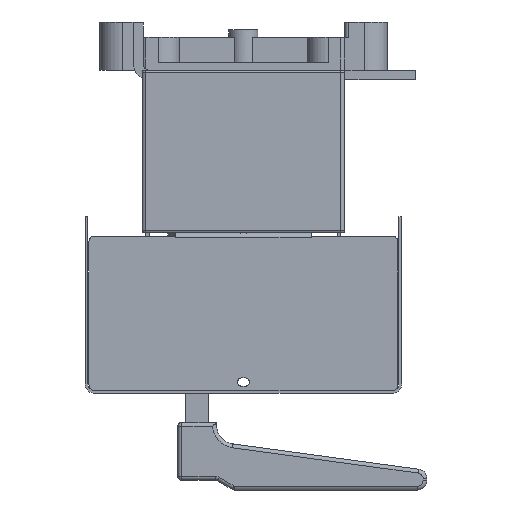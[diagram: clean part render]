
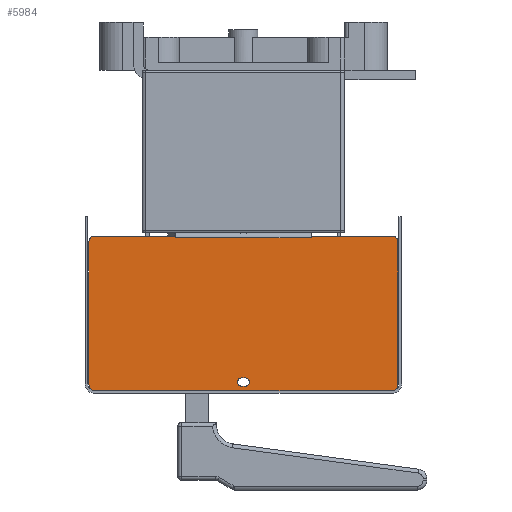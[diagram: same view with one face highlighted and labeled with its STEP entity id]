
A CAD part, left-side view. The second image highlights one B-rep face of the part: STEP entity #5984.
In plain terms, the highlighted planar face has unit normal (-1, 0, 0).
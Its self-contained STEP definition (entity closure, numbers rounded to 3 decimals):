
#637=FACE_BOUND('',#9055,.T.);
#638=FACE_BOUND('',#9056,.T.);
#2228=LINE('',#33777,#4470);
#2235=LINE('',#33795,#4477);
#2241=LINE('',#33812,#4483);
#2245=LINE('',#33825,#4487);
#2250=LINE('',#33842,#4492);
#2251=LINE('',#33847,#4493);
#2256=LINE('',#33860,#4498);
#2257=LINE('',#33862,#4499);
#2258=LINE('',#33864,#4500);
#2259=LINE('',#33866,#4501);
#2260=LINE('',#33868,#4502);
#2261=LINE('',#33870,#4503);
#4470=VECTOR('',#27386,1.);
#4477=VECTOR('',#27399,1.);
#4483=VECTOR('',#27413,1.);
#4487=VECTOR('',#27425,1.);
#4492=VECTOR('',#27444,1.);
#4493=VECTOR('',#27453,1.);
#4498=VECTOR('',#27466,1.);
#4499=VECTOR('',#27469,1.);
#4500=VECTOR('',#27470,1.);
#4501=VECTOR('',#27471,1.);
#4502=VECTOR('',#27472,1.);
#4503=VECTOR('',#27473,1.);
#5984=ADVANCED_FACE('',(#637,#638),#6915,.T.);
#6915=PLANE('',#22900);
#9055=EDGE_LOOP('',(#13301,#13302,#13303,#13304,#13305,#13306,#13307,#13308,
#13309,#13310,#13311,#13312,#13313,#13314));
#9056=EDGE_LOOP('',(#13315,#13316,#13317,#13318));
#13301=ORIENTED_EDGE('',*,*,#19745,.F.);
#13302=ORIENTED_EDGE('',*,*,#19746,.T.);
#13303=ORIENTED_EDGE('',*,*,#19747,.T.);
#13304=ORIENTED_EDGE('',*,*,#19748,.T.);
#13305=ORIENTED_EDGE('',*,*,#19749,.F.);
#13306=ORIENTED_EDGE('',*,*,#19737,.T.);
#13307=ORIENTED_EDGE('',*,*,#19742,.T.);
#13308=ORIENTED_EDGE('',*,*,#19725,.T.);
#13309=ORIENTED_EDGE('',*,*,#19728,.T.);
#13310=ORIENTED_EDGE('',*,*,#19703,.T.);
#13311=ORIENTED_EDGE('',*,*,#19731,.T.);
#13312=ORIENTED_EDGE('',*,*,#19734,.T.);
#13313=ORIENTED_EDGE('',*,*,#19736,.T.);
#13314=ORIENTED_EDGE('',*,*,#19711,.T.);
#13315=ORIENTED_EDGE('',*,*,#19715,.T.);
#13316=ORIENTED_EDGE('',*,*,#19719,.T.);
#13317=ORIENTED_EDGE('',*,*,#19722,.T.);
#13318=ORIENTED_EDGE('',*,*,#19744,.T.);
#16720=VERTEX_POINT('',#32606);
#16765=VERTEX_POINT('',#32703);
#17049=VERTEX_POINT('',#33794);
#17050=VERTEX_POINT('',#33796);
#17053=VERTEX_POINT('',#33803);
#17054=VERTEX_POINT('',#33805);
#17056=VERTEX_POINT('',#33811);
#17058=VERTEX_POINT('',#33817);
#17061=VERTEX_POINT('',#33824);
#17062=VERTEX_POINT('',#33826);
#17064=VERTEX_POINT('',#33835);
#17066=VERTEX_POINT('',#33841);
#17067=VERTEX_POINT('',#33848);
#17068=VERTEX_POINT('',#33849);
#17071=VERTEX_POINT('',#33863);
#17072=VERTEX_POINT('',#33865);
#17073=VERTEX_POINT('',#33867);
#17074=VERTEX_POINT('',#33869);
#19703=EDGE_CURVE('',#16720,#16765,#2228,.T.);
#19711=EDGE_CURVE('',#17050,#17049,#2235,.T.);
#19715=EDGE_CURVE('',#17054,#17053,#21381,.T.);
#19719=EDGE_CURVE('',#17053,#17056,#2241,.T.);
#19722=EDGE_CURVE('',#17056,#17058,#21383,.T.);
#19725=EDGE_CURVE('',#17062,#17061,#2245,.T.);
#19728=EDGE_CURVE('',#17061,#16720,#21385,.T.);
#19731=EDGE_CURVE('',#16765,#17064,#21387,.T.);
#19734=EDGE_CURVE('',#17064,#17066,#2250,.T.);
#19736=EDGE_CURVE('',#17066,#17050,#21389,.T.);
#19737=EDGE_CURVE('',#17067,#17068,#2251,.T.);
#19742=EDGE_CURVE('',#17068,#17062,#21391,.T.);
#19744=EDGE_CURVE('',#17058,#17054,#2256,.T.);
#19745=EDGE_CURVE('',#17071,#17049,#2257,.T.);
#19746=EDGE_CURVE('',#17071,#17072,#2258,.T.);
#19747=EDGE_CURVE('',#17072,#17073,#2259,.T.);
#19748=EDGE_CURVE('',#17073,#17074,#2260,.T.);
#19749=EDGE_CURVE('',#17067,#17074,#2261,.T.);
#21381=CIRCLE('',#22878,2.1);
#21383=CIRCLE('',#22882,2.1);
#21385=CIRCLE('',#22886,3.);
#21387=CIRCLE('',#22889,3.);
#21389=CIRCLE('',#22893,3.);
#21391=CIRCLE('',#22897,3.);
#22878=AXIS2_PLACEMENT_3D('',#33804,#27406,#27407);
#22882=AXIS2_PLACEMENT_3D('',#33818,#27419,#27420);
#22886=AXIS2_PLACEMENT_3D('',#33830,#27431,#27432);
#22889=AXIS2_PLACEMENT_3D('',#33836,#27438,#27439);
#22893=AXIS2_PLACEMENT_3D('',#33845,#27449,#27450);
#22897=AXIS2_PLACEMENT_3D('',#33857,#27461,#27462);
#22900=AXIS2_PLACEMENT_3D('',#33871,#27474,#27475);
#27386=DIRECTION('',(0.,-1.,0.));
#27399=DIRECTION('',(0.,1.,0.));
#27406=DIRECTION('',(1.,0.,0.));
#27407=DIRECTION('',(0.,1.,0.));
#27413=DIRECTION('',(0.,-1.,0.));
#27419=DIRECTION('',(1.,0.,0.));
#27420=DIRECTION('',(0.,1.,0.));
#27425=DIRECTION('',(0.,0.,-1.));
#27431=DIRECTION('',(-1.,0.,0.));
#27432=DIRECTION('',(0.,1.,0.));
#27438=DIRECTION('',(-1.,0.,0.));
#27439=DIRECTION('',(0.,1.,0.));
#27444=DIRECTION('',(0.,0.,1.));
#27449=DIRECTION('',(-1.,0.,0.));
#27450=DIRECTION('',(0.,1.,0.));
#27453=DIRECTION('',(0.,1.,0.));
#27461=DIRECTION('',(-1.,0.,0.));
#27462=DIRECTION('',(0.,1.,0.));
#27466=DIRECTION('',(0.,1.,0.));
#27469=DIRECTION('',(0.,0.,1.));
#27470=DIRECTION('',(0.,1.,0.));
#27471=DIRECTION('',(0.,1.,0.));
#27472=DIRECTION('',(0.,1.,0.));
#27473=DIRECTION('',(0.,0.,-1.));
#27474=DIRECTION('',(-1.,0.,0.));
#27475=DIRECTION('',(0.,-1.,0.));
#32606=CARTESIAN_POINT('',(-189.3,77.,-165.8));
#32703=CARTESIAN_POINT('',(-189.3,-77.,-165.8));
#33777=CARTESIAN_POINT('',(-189.3,77.,-165.8));
#33794=CARTESIAN_POINT('',(-189.3,-35.002,-85.8));
#33795=CARTESIAN_POINT('',(-189.3,-77.,-85.8));
#33796=CARTESIAN_POINT('',(-189.3,-77.,-85.8));
#33803=CARTESIAN_POINT('',(-189.3,1.,-159.3));
#33804=CARTESIAN_POINT('',(-189.3,1.,-161.4));
#33805=CARTESIAN_POINT('',(-189.3,1.,-163.5));
#33811=CARTESIAN_POINT('',(-189.3,-1.,-159.3));
#33812=CARTESIAN_POINT('',(-189.3,1.,-159.3));
#33817=CARTESIAN_POINT('',(-189.3,-1.,-163.5));
#33818=CARTESIAN_POINT('',(-189.3,-1.,-161.4));
#33824=CARTESIAN_POINT('',(-189.3,80.,-162.8));
#33825=CARTESIAN_POINT('',(-189.3,80.,-88.8));
#33826=CARTESIAN_POINT('',(-189.3,80.,-88.8));
#33830=CARTESIAN_POINT('',(-189.3,77.,-162.8));
#33835=CARTESIAN_POINT('',(-189.3,-80.,-162.8));
#33836=CARTESIAN_POINT('',(-189.3,-77.,-162.8));
#33841=CARTESIAN_POINT('',(-189.3,-80.,-88.8));
#33842=CARTESIAN_POINT('',(-189.3,-80.,-162.8));
#33845=CARTESIAN_POINT('',(-189.3,-77.,-88.8));
#33847=CARTESIAN_POINT('',(-189.3,-77.,-85.8));
#33848=CARTESIAN_POINT('',(-189.3,35.002,-85.8));
#33849=CARTESIAN_POINT('',(-189.3,77.,-85.8));
#33857=CARTESIAN_POINT('',(-189.3,77.,-88.8));
#33860=CARTESIAN_POINT('',(-189.3,-1.,-163.5));
#33862=CARTESIAN_POINT('',(-189.3,-35.002,-162.8));
#33863=CARTESIAN_POINT('',(-189.3,-35.002,-86.8));
#33864=CARTESIAN_POINT('',(-189.3,77.,-86.8));
#33865=CARTESIAN_POINT('',(-189.3,-35.,-86.8));
#33866=CARTESIAN_POINT('',(-189.3,50.5,-86.8));
#33867=CARTESIAN_POINT('',(-189.3,35.,-86.8));
#33868=CARTESIAN_POINT('',(-189.3,77.,-86.8));
#33869=CARTESIAN_POINT('',(-189.3,35.002,-86.8));
#33870=CARTESIAN_POINT('',(-189.3,35.002,-162.8));
#33871=CARTESIAN_POINT('',(-189.3,77.,-162.8));
